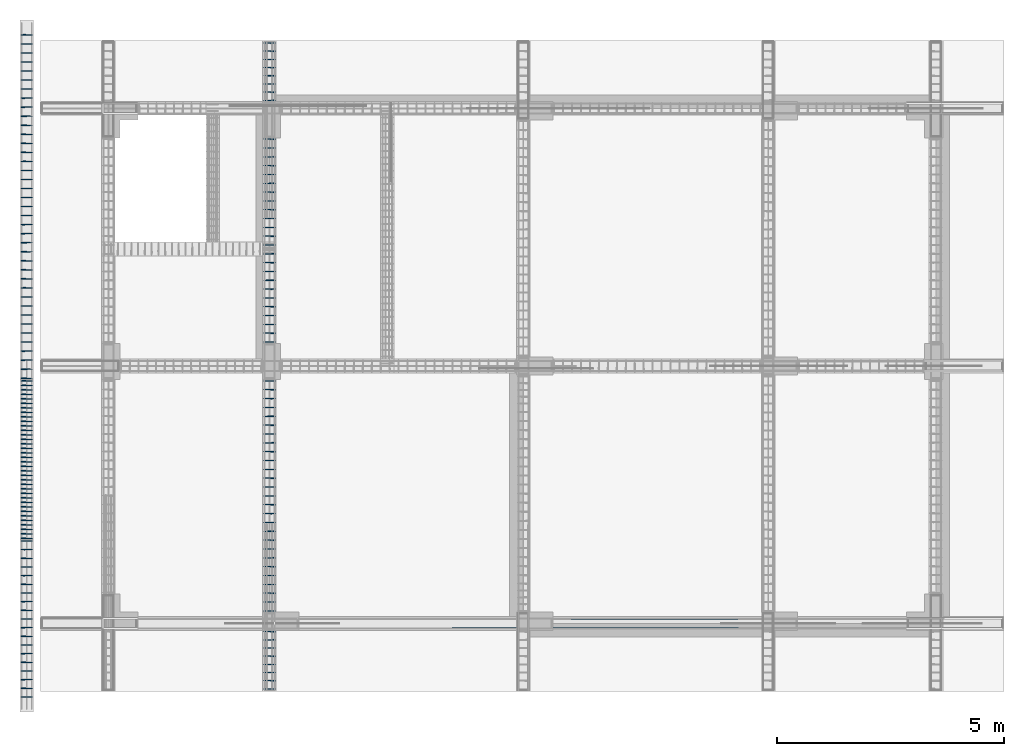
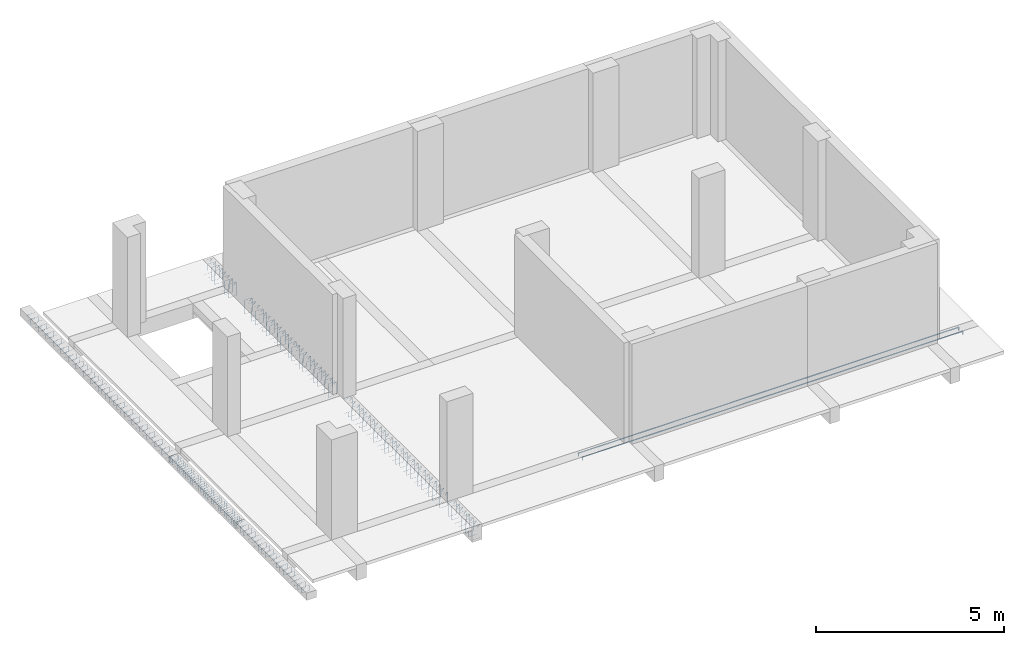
# One storey, part 2 of 3: 3 reinforcing bars.
"""IFC4 building model written with IfcOpenShell, lengths in metres."""

from ifc_helpers import new_model, entity, si_unit, frame, origin_with_axes, place, context, project, spatial, source, transform, mapped, element, save


model = new_model("IFC4")

# Units and contexts
model_context = context("Model", 3, precision=1e-05, world=origin_with_axes())
ifc_project = project(units=[si_unit("LENGTHUNIT", "METRE"), si_unit("AREAUNIT", "SQUARE_METRE"), si_unit("VOLUMEUNIT", "CUBIC_METRE"), si_unit("MASSUNIT", "GRAM", prefix="KILO"), si_unit("TIMEUNIT", "SECOND"), si_unit("PLANEANGLEUNIT", "RADIAN"), si_unit("SOLIDANGLEUNIT", "STERADIAN"), si_unit("THERMODYNAMICTEMPERATUREUNIT", "DEGREE_CELSIUS")], contexts=[model_context])

# Site, building, storey
placement_1 = place(None, origin_with_axes())
site = spatial("IfcSite", under=ifc_project, at=placement_1, Name="Italia", CompositionType="ELEMENT")
building = spatial("IfcBuilding", under=site, at=placement_1, Name="Palazzina", CompositionType="ELEMENT")
storey_placement = place(None, frame((0.0, 0.0, 3.75), z_axis=(0.0, 0.0, 1.0), x_axis=(1.0, 0.0, 0.0)))
storey = spatial("IfcBuildingStorey", under=building, at=storey_placement, Name="Storey 1", CompositionType="ELEMENT", Elevation=3.75)

# Reinforcing bars
shared_shape_1 = source(origin_with_axes(), model_context, "Body", "AdvancedSweptSolid", [
    entity("IfcSweptDiskSolid", entity("IfcIndexedPolyCurve", entity("IfcCartesianPointList3D", [[7.74546, 0.043, 3.61], [7.74546, 0.043, 3.7], [7.74622, 0.043, 3.70383], [7.74839, 0.043, 3.70707], [7.75163, 0.043, 3.70924], [7.75546, 0.043, 3.71], [8.96, 0.043, 3.71], [18.2209, 0.043, 3.71], [19.4255, 0.043, 3.71], [19.4293, 0.043, 3.70924], [19.4325, 0.043, 3.70707], [19.4347, 0.043, 3.70383], [19.4355, 0.043, 3.7], [19.4355, 0.043, 3.61]]), [entity("IfcLineIndex", [1, 2]), entity("IfcLineIndex", [2, 3]), entity("IfcLineIndex", [3, 4]), entity("IfcLineIndex", [4, 5]), entity("IfcLineIndex", [5, 6]), entity("IfcLineIndex", [6, 7]), entity("IfcLineIndex", [7, 8]), entity("IfcLineIndex", [8, 9]), entity("IfcLineIndex", [9, 10]), entity("IfcLineIndex", [10, 11]), entity("IfcLineIndex", [11, 12]), entity("IfcLineIndex", [12, 13]), entity("IfcLineIndex", [13, 14])], False), 0.01),
])
placement_2 = place(placement_1, origin_with_axes())
reinforcing_bar_1_placement = place(placement_2, origin_with_axes())
element("IfcReinforcingBar", 1, at=reinforcing_bar_1_placement, inside=storey, BarLength=11.8812, CrossSectionArea=0.00031416, NominalDiameter=0.02, context=model_context, shape_type="MappedRepresentation", body=[
    mapped(shared_shape_1, transform((0.0, 0.214, 0.0), x_axis=(1.0, 0.0, 0.0), y_axis=(0.0, 1.0, 0.0), z_axis=(0.0, 0.0, 1.0), scale=1.0)),
    mapped(shared_shape_1, transform((0.0, 0.0, 0.0), x_axis=(1.0, 0.0, 0.0), y_axis=(0.0, 1.0, 0.0), z_axis=(0.0, 0.0, 1.0), scale=1.0)),
])
shared_shape_2 = source(origin_with_axes(), model_context, "Body", "AdvancedSweptSolid", [
    entity("IfcSweptDiskSolid", entity("IfcIndexedPolyCurve", entity("IfcCartesianPointList3D", [[-1.70029, -1.475, 3.62929], [-1.76807, -1.47411, 3.69707], [-1.771, -1.47404, 3.70414], [-1.771, -1.47397, 3.711], [-1.77024, -1.47394, 3.71483], [-1.76807, -1.4739, 3.71807], [-1.76483, -1.47386, 3.72024], [-1.761, -1.47383, 3.721], [-1.539, -1.47176, 3.721], [-1.53517, -1.47173, 3.72024], [-1.53193, -1.47169, 3.71807], [-1.52976, -1.47165, 3.71483], [-1.529, -1.47162, 3.711], [-1.529, -1.47011, 3.549], [-1.52976, -1.47007, 3.54517], [-1.53193, -1.47004, 3.54193], [-1.53517, -1.47, 3.53976], [-1.539, -1.46996, 3.539], [-1.761, -1.4679, 3.539], [-1.76483, -1.46786, 3.53976], [-1.76807, -1.46783, 3.54193], [-1.77024, -1.46779, 3.54517], [-1.771, -1.46775, 3.549], [-1.771, -1.46625, 3.711], [-1.77024, -1.46621, 3.71483], [-1.76807, -1.46617, 3.71807], [-1.76483, -1.46614, 3.72024], [-1.761, -1.4661, 3.721], [-1.75414, -1.46604, 3.721], [-1.74707, -1.46597, 3.71807], [-1.67929, -1.46507, 3.65029]]), [entity("IfcLineIndex", [1, 2]), entity("IfcLineIndex", [2, 3]), entity("IfcLineIndex", [3, 4]), entity("IfcLineIndex", [4, 5]), entity("IfcLineIndex", [5, 6]), entity("IfcLineIndex", [6, 7]), entity("IfcLineIndex", [7, 8]), entity("IfcLineIndex", [8, 9]), entity("IfcLineIndex", [9, 10]), entity("IfcLineIndex", [10, 11]), entity("IfcLineIndex", [11, 12]), entity("IfcLineIndex", [12, 13]), entity("IfcLineIndex", [13, 14]), entity("IfcLineIndex", [14, 15]), entity("IfcLineIndex", [15, 16]), entity("IfcLineIndex", [16, 17]), entity("IfcLineIndex", [17, 18]), entity("IfcLineIndex", [18, 19]), entity("IfcLineIndex", [19, 20]), entity("IfcLineIndex", [20, 21]), entity("IfcLineIndex", [21, 22]), entity("IfcLineIndex", [22, 23]), entity("IfcLineIndex", [23, 24]), entity("IfcLineIndex", [24, 25]), entity("IfcLineIndex", [25, 26]), entity("IfcLineIndex", [26, 27]), entity("IfcLineIndex", [27, 28]), entity("IfcLineIndex", [28, 29]), entity("IfcLineIndex", [29, 30]), entity("IfcLineIndex", [30, 31])], False), 0.004),
])
reinforcing_bar_2_placement = place(placement_2, origin_with_axes())
element("IfcReinforcingBar", 2, at=reinforcing_bar_2_placement, inside=storey, BarLength=1.06682, CrossSectionArea=5.0265e-05, NominalDiameter=0.008, context=model_context, shape_type="MappedRepresentation", body=[
    mapped(shared_shape_2, transform((-4.37498e-05, 4.09514, -4.33922e-05), x_axis=(1.0, 2.87137e-05, 0.0), y_axis=(-2.87798e-05, 1.0, -2.87785e-05), z_axis=(0.0, 2.87785e-05, 1.0), scale=1.0)),
    mapped(shared_shape_2, transform((-4.37498e-05, 4.39275, -4.33922e-05), x_axis=(1.0, 2.87137e-05, 0.0), y_axis=(-2.87798e-05, 1.0, -2.87785e-05), z_axis=(0.0, 2.87785e-05, 1.0), scale=1.0)),
    mapped(shared_shape_2, transform((-4.37498e-05, 4.49194, -4.33922e-05), x_axis=(1.0, 2.87137e-05, 0.0), y_axis=(-2.87798e-05, 1.0, -2.87785e-05), z_axis=(0.0, 2.87785e-05, 1.0), scale=1.0)),
    mapped(shared_shape_2, transform((-4.37498e-05, 5.08714, -4.33922e-05), x_axis=(1.0, 2.87137e-05, 0.0), y_axis=(-2.87798e-05, 1.0, -2.87785e-05), z_axis=(0.0, 2.87785e-05, 1.0), scale=1.0)),
    mapped(shared_shape_2, transform((-4.37498e-05, 3.99594, -4.33922e-05), x_axis=(1.0, 2.87137e-05, 0.0), y_axis=(-2.87798e-05, 1.0, -2.87785e-05), z_axis=(0.0, 2.87785e-05, 1.0), scale=1.0)),
    mapped(shared_shape_2, transform((-4.37498e-05, 4.29354, -4.33922e-05), x_axis=(1.0, 2.87137e-05, 0.0), y_axis=(-2.87798e-05, 1.0, -2.87785e-05), z_axis=(0.0, 2.87785e-05, 1.0), scale=1.0)),
    mapped(shared_shape_2, transform((-4.37498e-05, 3.89674, -4.33922e-05), x_axis=(1.0, 2.87137e-05, 0.0), y_axis=(-2.87798e-05, 1.0, -2.87785e-05), z_axis=(0.0, 2.87785e-05, 1.0), scale=1.0)),
    mapped(shared_shape_2, transform((-0.000140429, 10.218, -0.000133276), x_axis=(1.0, 9.22552e-05, 0.0), y_axis=(-9.23133e-05, 1.0, -8.881e-05), z_axis=(0.0, 8.88101e-05, 1.0), scale=1.0)),
    mapped(shared_shape_2, transform((-0.000140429, 10.4173, -0.000133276), x_axis=(1.0, 9.22552e-05, 0.0), y_axis=(-9.23133e-05, 1.0, -8.881e-05), z_axis=(0.0, 8.88101e-05, 1.0), scale=1.0)),
    mapped(shared_shape_2, transform((-4.37498e-05, 5.18635, -4.33922e-05), x_axis=(1.0, 2.87137e-05, 0.0), y_axis=(-2.87798e-05, 1.0, -2.87785e-05), z_axis=(0.0, 2.87785e-05, 1.0), scale=1.0)),
    mapped(shared_shape_2, transform((-0.000140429, 13.4063, -0.000133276), x_axis=(1.0, 9.22552e-05, 0.0), y_axis=(-9.23133e-05, 1.0, -8.881e-05), z_axis=(0.0, 8.88101e-05, 1.0), scale=1.0)),
    mapped(shared_shape_2, transform((-0.000140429, 13.6055, -0.000133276), x_axis=(1.0, 9.22552e-05, 0.0), y_axis=(-9.23133e-05, 1.0, -8.881e-05), z_axis=(0.0, 8.88101e-05, 1.0), scale=1.0)),
    mapped(shared_shape_2, transform((-4.37498e-05, 4.59114, -4.33922e-05), x_axis=(1.0, 2.87137e-05, 0.0), y_axis=(-2.87798e-05, 1.0, -2.87785e-05), z_axis=(0.0, 2.87785e-05, 1.0), scale=1.0)),
    mapped(shared_shape_2, transform((-4.37498e-05, 4.69034, -4.33922e-05), x_axis=(1.0, 2.87137e-05, 0.0), y_axis=(-2.87798e-05, 1.0, -2.87785e-05), z_axis=(0.0, 2.87785e-05, 1.0), scale=1.0)),
    mapped(shared_shape_2, transform((-4.37498e-05, 4.19434, -4.33922e-05), x_axis=(1.0, 2.87137e-05, 0.0), y_axis=(-2.87798e-05, 1.0, -2.87785e-05), z_axis=(0.0, 2.87785e-05, 1.0), scale=1.0)),
    mapped(shared_shape_2, transform((-4.37498e-05, 4.98794, -4.33922e-05), x_axis=(1.0, 2.87137e-05, 0.0), y_axis=(-2.87798e-05, 1.0, -2.87785e-05), z_axis=(0.0, 2.87785e-05, 1.0), scale=1.0)),
    mapped(shared_shape_2, transform((-0.000140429, 12.4099, -0.000133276), x_axis=(1.0, 9.22552e-05, 0.0), y_axis=(-9.23133e-05, 1.0, -8.881e-05), z_axis=(0.0, 8.88101e-05, 1.0), scale=1.0)),
    mapped(shared_shape_2, transform((-0.000140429, 12.6092, -0.000133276), x_axis=(1.0, 9.22552e-05, 0.0), y_axis=(-9.23133e-05, 1.0, -8.881e-05), z_axis=(0.0, 8.88101e-05, 1.0), scale=1.0)),
    mapped(shared_shape_2, transform((-4.37498e-05, 5.28554, -4.33922e-05), x_axis=(1.0, 2.87137e-05, 0.0), y_axis=(-2.87798e-05, 1.0, -2.87785e-05), z_axis=(0.0, 2.87785e-05, 1.0), scale=1.0)),
    mapped(shared_shape_2, transform((-4.37498e-05, 5.38474, -4.33922e-05), x_axis=(1.0, 2.87137e-05, 0.0), y_axis=(-2.87798e-05, 1.0, -2.87785e-05), z_axis=(0.0, 2.87785e-05, 1.0), scale=1.0)),
    mapped(shared_shape_2, transform((-0.000140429, 11.2144, -0.000133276), x_axis=(1.0, 9.22552e-05, 0.0), y_axis=(-9.23133e-05, 1.0, -8.881e-05), z_axis=(0.0, 8.88101e-05, 1.0), scale=1.0)),
    mapped(shared_shape_2, transform((-0.000140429, 13.8048, -0.000133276), x_axis=(1.0, 9.22552e-05, 0.0), y_axis=(-9.23133e-05, 1.0, -8.881e-05), z_axis=(0.0, 8.88101e-05, 1.0), scale=1.0)),
    mapped(shared_shape_2, transform((-0.000140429, 14.004, -0.000133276), x_axis=(1.0, 9.22552e-05, 0.0), y_axis=(-9.23133e-05, 1.0, -8.881e-05), z_axis=(0.0, 8.88101e-05, 1.0), scale=1.0)),
    mapped(shared_shape_2, transform((-4.37498e-05, 4.78955, -4.33922e-05), x_axis=(1.0, 2.87137e-05, 0.0), y_axis=(-2.87798e-05, 1.0, -2.87785e-05), z_axis=(0.0, 2.87785e-05, 1.0), scale=1.0)),
    mapped(shared_shape_2, transform((-4.37498e-05, 3.79754, -4.33922e-05), x_axis=(1.0, 2.87137e-05, 0.0), y_axis=(-2.87798e-05, 1.0, -2.87785e-05), z_axis=(0.0, 2.87785e-05, 1.0), scale=1.0)),
    mapped(shared_shape_2, transform((-0.000140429, 10.0188, -0.000133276), x_axis=(1.0, 9.22552e-05, 0.0), y_axis=(-9.23133e-05, 1.0, -8.881e-05), z_axis=(0.0, 8.88101e-05, 1.0), scale=1.0)),
    mapped(shared_shape_2, transform((-0.000140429, 10.6166, -0.000133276), x_axis=(1.0, 9.22552e-05, 0.0), y_axis=(-9.23133e-05, 1.0, -8.881e-05), z_axis=(0.0, 8.88101e-05, 1.0), scale=1.0)),
    mapped(shared_shape_2, transform((-0.000140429, 11.0151, -0.000133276), x_axis=(1.0, 9.22552e-05, 0.0), y_axis=(-9.23133e-05, 1.0, -8.881e-05), z_axis=(0.0, 8.88101e-05, 1.0), scale=1.0)),
    mapped(shared_shape_2, transform((-0.000140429, 11.6129, -0.000133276), x_axis=(1.0, 9.22552e-05, 0.0), y_axis=(-9.23133e-05, 1.0, -8.881e-05), z_axis=(0.0, 8.88101e-05, 1.0), scale=1.0)),
    mapped(shared_shape_2, transform((0.0, 0.191223, 0.0), x_axis=(1.0, 0.0, 0.0), y_axis=(0.0, 1.0, 0.0), z_axis=(0.0, 0.0, 1.0), scale=1.0)),
    mapped(shared_shape_2, transform((-4.37498e-05, 4.88874, -4.33922e-05), x_axis=(1.0, 2.87137e-05, 0.0), y_axis=(-2.87798e-05, 1.0, -2.87785e-05), z_axis=(0.0, 2.87785e-05, 1.0), scale=1.0)),
    mapped(shared_shape_2, transform((-0.000140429, 10.8158, -0.000133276), x_axis=(1.0, 9.22552e-05, 0.0), y_axis=(-9.23133e-05, 1.0, -8.881e-05), z_axis=(0.0, 8.88101e-05, 1.0), scale=1.0)),
    mapped(shared_shape_2, transform((-0.000140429, 11.4136, -0.000133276), x_axis=(1.0, 9.22552e-05, 0.0), y_axis=(-9.23133e-05, 1.0, -8.881e-05), z_axis=(0.0, 8.88101e-05, 1.0), scale=1.0)),
    mapped(shared_shape_2, transform((-0.000140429, 11.8121, -0.000133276), x_axis=(1.0, 9.22552e-05, 0.0), y_axis=(-9.23133e-05, 1.0, -8.881e-05), z_axis=(0.0, 8.88101e-05, 1.0), scale=1.0)),
    mapped(shared_shape_2, transform((-1.96695e-05, 2.29464, -2.07424e-05), x_axis=(1.0, 1.28046e-05, 0.0), y_axis=(-1.28669e-05, 1.0, -1.37518e-05), z_axis=(0.0, 1.37518e-05, 1.0), scale=1.0)),
    mapped(shared_shape_2, transform((-0.000140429, 14.6018, -0.000133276), x_axis=(1.0, 9.22552e-05, 0.0), y_axis=(-9.23133e-05, 1.0, -8.881e-05), z_axis=(0.0, 8.88101e-05, 1.0), scale=1.0)),
    mapped(shared_shape_2, transform((-0.000140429, 13.0077, -0.000133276), x_axis=(1.0, 9.22552e-05, 0.0), y_axis=(-9.23133e-05, 1.0, -8.881e-05), z_axis=(0.0, 8.88101e-05, 1.0), scale=1.0)),
    mapped(shared_shape_2, transform((-0.000140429, 12.8085, -0.000133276), x_axis=(1.0, 9.22552e-05, 0.0), y_axis=(-9.23133e-05, 1.0, -8.881e-05), z_axis=(0.0, 8.88101e-05, 1.0), scale=1.0)),
    mapped(shared_shape_2, transform((-1.96695e-05, 2.10342, -2.07424e-05), x_axis=(1.0, 1.28046e-05, 0.0), y_axis=(-1.28669e-05, 1.0, -1.37518e-05), z_axis=(0.0, 1.37518e-05, 1.0), scale=1.0)),
    mapped(shared_shape_2, transform((-0.000140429, 13.207, -0.000133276), x_axis=(1.0, 9.22552e-05, 0.0), y_axis=(-9.23133e-05, 1.0, -8.881e-05), z_axis=(0.0, 8.88101e-05, 1.0), scale=1.0)),
    mapped(shared_shape_2, transform((-4.37498e-05, 3.59914, -4.33922e-05), x_axis=(1.0, 2.87137e-05, 0.0), y_axis=(-2.87798e-05, 1.0, -2.87785e-05), z_axis=(0.0, 2.87785e-05, 1.0), scale=1.0)),
    mapped(shared_shape_2, transform((-4.37498e-05, 3.49994, -4.33922e-05), x_axis=(1.0, 2.87137e-05, 0.0), y_axis=(-2.87798e-05, 1.0, -2.87785e-05), z_axis=(0.0, 2.87785e-05, 1.0), scale=1.0)),
    mapped(shared_shape_2, transform((-0.000140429, 12.2107, -0.000133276), x_axis=(1.0, 9.22552e-05, 0.0), y_axis=(-9.23133e-05, 1.0, -8.881e-05), z_axis=(0.0, 8.88101e-05, 1.0), scale=1.0)),
    mapped(shared_shape_2, transform((-4.37498e-05, 3.69834, -4.33922e-05), x_axis=(1.0, 2.87137e-05, 0.0), y_axis=(-2.87798e-05, 1.0, -2.87785e-05), z_axis=(0.0, 2.87785e-05, 1.0), scale=1.0)),
    mapped(shared_shape_2, transform((0.0, 0.0, 0.0), x_axis=(1.0, 0.0, 0.0), y_axis=(0.0, 1.0, 0.0), z_axis=(0.0, 0.0, 1.0), scale=1.0)),
    mapped(shared_shape_2, transform((0.0, 0.382445, 0.0), x_axis=(1.0, 0.0, 0.0), y_axis=(0.0, 1.0, 0.0), z_axis=(0.0, 0.0, 1.0), scale=1.0)),
    mapped(shared_shape_2, transform((0.0, 0.573666, 0.0), x_axis=(1.0, 0.0, 0.0), y_axis=(0.0, 1.0, 0.0), z_axis=(0.0, 0.0, 1.0), scale=1.0)),
    mapped(shared_shape_2, transform((0.0, 0.956111, 0.0), x_axis=(1.0, 0.0, 0.0), y_axis=(0.0, 1.0, 0.0), z_axis=(0.0, 0.0, 1.0), scale=1.0)),
    mapped(shared_shape_2, transform((0.0, 1.14733, 0.0), x_axis=(1.0, 0.0, 0.0), y_axis=(0.0, 1.0, 0.0), z_axis=(0.0, 0.0, 1.0), scale=1.0)),
    mapped(shared_shape_2, transform((0.0, 0.764889, 0.0), x_axis=(1.0, 0.0, 0.0), y_axis=(0.0, 1.0, 0.0), z_axis=(0.0, 0.0, 1.0), scale=1.0)),
    mapped(shared_shape_2, transform((-1.96695e-05, 1.33853, -2.07424e-05), x_axis=(1.0, 1.28046e-05, 0.0), y_axis=(-1.28669e-05, 1.0, -1.37518e-05), z_axis=(0.0, 1.37518e-05, 1.0), scale=1.0)),
    mapped(shared_shape_2, transform((-0.000140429, 12.0114, -0.000133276), x_axis=(1.0, 9.22552e-05, 0.0), y_axis=(-9.23133e-05, 1.0, -8.881e-05), z_axis=(0.0, 8.88101e-05, 1.0), scale=1.0)),
    mapped(shared_shape_2, transform((-0.000140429, 14.4026, -0.000133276), x_axis=(1.0, 9.22552e-05, 0.0), y_axis=(-9.23133e-05, 1.0, -8.881e-05), z_axis=(0.0, 8.88101e-05, 1.0), scale=1.0)),
    mapped(shared_shape_2, transform((-1.96695e-05, 1.72097, -2.07424e-05), x_axis=(1.0, 1.28046e-05, 0.0), y_axis=(-1.28669e-05, 1.0, -1.37518e-05), z_axis=(0.0, 1.37518e-05, 1.0), scale=1.0)),
    mapped(shared_shape_2, transform((0.0, 1.52976, 0.0), x_axis=(1.0, 0.0, 0.0), y_axis=(0.0, 1.0, 0.0), z_axis=(0.0, 0.0, 1.0), scale=1.0)),
    mapped(shared_shape_2, transform((-0.000140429, 14.2033, -0.000133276), x_axis=(1.0, 9.22552e-05, 0.0), y_axis=(-9.23133e-05, 1.0, -8.881e-05), z_axis=(0.0, 8.88101e-05, 1.0), scale=1.0)),
    mapped(shared_shape_2, transform((0.0, 1.91221, 0.0), x_axis=(1.0, 0.0, 0.0), y_axis=(0.0, 1.0, 0.0), z_axis=(0.0, 0.0, 1.0), scale=1.0)),
    mapped(shared_shape_2, transform((0.0, 3.05956, 0.0), x_axis=(1.0, 0.0, 0.0), y_axis=(0.0, 1.0, 0.0), z_axis=(0.0, 0.0, 1.0), scale=1.0)),
    mapped(shared_shape_2, transform((0.0, 3.442, 0.0), x_axis=(1.0, 0.0, 0.0), y_axis=(0.0, 1.0, 0.0), z_axis=(0.0, 0.0, 1.0), scale=1.0)),
    mapped(shared_shape_2, transform((0.0, 3.25078, 0.0), x_axis=(1.0, 0.0, 0.0), y_axis=(0.0, 1.0, 0.0), z_axis=(0.0, 0.0, 1.0), scale=1.0)),
    mapped(shared_shape_2, transform((0.0, 2.86833, 0.0), x_axis=(1.0, 0.0, 0.0), y_axis=(0.0, 1.0, 0.0), z_axis=(0.0, 0.0, 1.0), scale=1.0)),
    mapped(shared_shape_2, transform((0.0, 2.67711, 0.0), x_axis=(1.0, 0.0, 0.0), y_axis=(0.0, 1.0, 0.0), z_axis=(0.0, 0.0, 1.0), scale=1.0)),
    mapped(shared_shape_2, transform((0.0, 2.48589, 0.0), x_axis=(1.0, 0.0, 0.0), y_axis=(0.0, 1.0, 0.0), z_axis=(0.0, 0.0, 1.0), scale=1.0)),
    mapped(shared_shape_2, transform((5.30481e-05, 7.42858, 4.673e-05), x_axis=(1.0, -3.48679e-05, 0.0), y_axis=(3.48041e-05, 1.0, 3.12843e-05), z_axis=(0.0, -3.12843e-05, 1.0), scale=1.0)),
    mapped(shared_shape_2, transform((5.30481e-05, 6.17845, 4.673e-05), x_axis=(1.0, -3.48679e-05, 0.0), y_axis=(3.48041e-05, 1.0, 3.12843e-05), z_axis=(0.0, -3.12843e-05, 1.0), scale=1.0)),
    mapped(shared_shape_2, transform((5.30481e-05, 6.37685, 4.673e-05), x_axis=(1.0, -3.48679e-05, 0.0), y_axis=(3.48041e-05, 1.0, 3.12843e-05), z_axis=(0.0, -3.12843e-05, 1.0), scale=1.0)),
    mapped(shared_shape_2, transform((5.30481e-05, 5.58325, 4.673e-05), x_axis=(1.0, -3.48679e-05, 0.0), y_axis=(3.48041e-05, 1.0, 3.12843e-05), z_axis=(0.0, -3.12843e-05, 1.0), scale=1.0)),
    mapped(shared_shape_2, transform((5.30481e-05, 7.22932, 4.673e-05), x_axis=(1.0, -3.48679e-05, 0.0), y_axis=(3.48041e-05, 1.0, 3.12843e-05), z_axis=(0.0, -3.12843e-05, 1.0), scale=1.0)),
    mapped(shared_shape_2, transform((5.30481e-05, 9.42121, 4.673e-05), x_axis=(1.0, -3.48679e-05, 0.0), y_axis=(3.48041e-05, 1.0, 3.12843e-05), z_axis=(0.0, -3.12843e-05, 1.0), scale=1.0)),
    mapped(shared_shape_2, transform((5.30481e-05, 5.88086, 4.673e-05), x_axis=(1.0, -3.48679e-05, 0.0), y_axis=(3.48041e-05, 1.0, 3.12843e-05), z_axis=(0.0, -3.12843e-05, 1.0), scale=1.0)),
    mapped(shared_shape_2, transform((5.30481e-05, 5.48406, 4.673e-05), x_axis=(1.0, -3.48679e-05, 0.0), y_axis=(3.48041e-05, 1.0, 3.12843e-05), z_axis=(0.0, -3.12843e-05, 1.0), scale=1.0)),
    mapped(shared_shape_2, transform((5.30481e-05, 5.98005, 4.673e-05), x_axis=(1.0, -3.48679e-05, 0.0), y_axis=(3.48041e-05, 1.0, 3.12843e-05), z_axis=(0.0, -3.12843e-05, 1.0), scale=1.0)),
    mapped(shared_shape_2, transform((5.30481e-05, 7.82711, 4.673e-05), x_axis=(1.0, -3.48679e-05, 0.0), y_axis=(3.48041e-05, 1.0, 3.12843e-05), z_axis=(0.0, -3.12843e-05, 1.0), scale=1.0)),
    mapped(shared_shape_2, transform((5.30481e-05, 7.62784, 4.673e-05), x_axis=(1.0, -3.48679e-05, 0.0), y_axis=(3.48041e-05, 1.0, 3.12843e-05), z_axis=(0.0, -3.12843e-05, 1.0), scale=1.0)),
    mapped(shared_shape_2, transform((5.30481e-05, 6.57525, 4.673e-05), x_axis=(1.0, -3.48679e-05, 0.0), y_axis=(3.48041e-05, 1.0, 3.12843e-05), z_axis=(0.0, -3.12843e-05, 1.0), scale=1.0)),
    mapped(shared_shape_2, transform((5.30481e-05, 6.47605, 4.673e-05), x_axis=(1.0, -3.48679e-05, 0.0), y_axis=(3.48041e-05, 1.0, 3.12843e-05), z_axis=(0.0, -3.12843e-05, 1.0), scale=1.0)),
    mapped(shared_shape_2, transform((5.30481e-05, 5.68245, 4.673e-05), x_axis=(1.0, -3.48679e-05, 0.0), y_axis=(3.48041e-05, 1.0, 3.12843e-05), z_axis=(0.0, -3.12843e-05, 1.0), scale=1.0)),
    mapped(shared_shape_2, transform((5.30481e-05, 6.77365, 4.673e-05), x_axis=(1.0, -3.48679e-05, 0.0), y_axis=(3.48041e-05, 1.0, 3.12843e-05), z_axis=(0.0, -3.12843e-05, 1.0), scale=1.0)),
    mapped(shared_shape_2, transform((5.30481e-05, 7.03005, 4.673e-05), x_axis=(1.0, -3.48679e-05, 0.0), y_axis=(3.48041e-05, 1.0, 3.12843e-05), z_axis=(0.0, -3.12843e-05, 1.0), scale=1.0)),
    mapped(shared_shape_2, transform((5.30481e-05, 5.78165, 4.673e-05), x_axis=(1.0, -3.48679e-05, 0.0), y_axis=(3.48041e-05, 1.0, 3.12843e-05), z_axis=(0.0, -3.12843e-05, 1.0), scale=1.0)),
    mapped(shared_shape_2, transform((5.30481e-05, 6.07925, 4.673e-05), x_axis=(1.0, -3.48679e-05, 0.0), y_axis=(3.48041e-05, 1.0, 3.12843e-05), z_axis=(0.0, -3.12843e-05, 1.0), scale=1.0)),
    mapped(shared_shape_2, transform((5.30481e-05, 6.67446, 4.673e-05), x_axis=(1.0, -3.48679e-05, 0.0), y_axis=(3.48041e-05, 1.0, 3.12843e-05), z_axis=(0.0, -3.12843e-05, 1.0), scale=1.0)),
    mapped(shared_shape_2, transform((5.30481e-05, 8.02637, 4.673e-05), x_axis=(1.0, -3.48679e-05, 0.0), y_axis=(3.48041e-05, 1.0, 3.12843e-05), z_axis=(0.0, -3.12843e-05, 1.0), scale=1.0)),
    mapped(shared_shape_2, transform((5.30481e-05, 6.27766, 4.673e-05), x_axis=(1.0, -3.48679e-05, 0.0), y_axis=(3.48041e-05, 1.0, 3.12843e-05), z_axis=(0.0, -3.12843e-05, 1.0), scale=1.0)),
    mapped(shared_shape_2, transform((5.30481e-05, 8.62416, 4.673e-05), x_axis=(1.0, -3.48679e-05, 0.0), y_axis=(3.48041e-05, 1.0, 3.12843e-05), z_axis=(0.0, -3.12843e-05, 1.0), scale=1.0)),
    mapped(shared_shape_2, transform((5.30481e-05, 8.22563, 4.673e-05), x_axis=(1.0, -3.48679e-05, 0.0), y_axis=(3.48041e-05, 1.0, 3.12843e-05), z_axis=(0.0, -3.12843e-05, 1.0), scale=1.0)),
    mapped(shared_shape_2, transform((5.30481e-05, 6.97205, 4.673e-05), x_axis=(1.0, -3.48679e-05, 0.0), y_axis=(3.48041e-05, 1.0, 3.12843e-05), z_axis=(0.0, -3.12843e-05, 1.0), scale=1.0)),
    mapped(shared_shape_2, transform((5.30481e-05, 6.87285, 4.673e-05), x_axis=(1.0, -3.48679e-05, 0.0), y_axis=(3.48041e-05, 1.0, 3.12843e-05), z_axis=(0.0, -3.12843e-05, 1.0), scale=1.0)),
    mapped(shared_shape_2, transform((5.30481e-05, 8.4249, 4.673e-05), x_axis=(1.0, -3.48679e-05, 0.0), y_axis=(3.48041e-05, 1.0, 3.12843e-05), z_axis=(0.0, -3.12843e-05, 1.0), scale=1.0)),
    mapped(shared_shape_2, transform((5.30481e-05, 9.22195, 4.673e-05), x_axis=(1.0, -3.48679e-05, 0.0), y_axis=(3.48041e-05, 1.0, 3.12843e-05), z_axis=(0.0, -3.12843e-05, 1.0), scale=1.0)),
    mapped(shared_shape_2, transform((5.30481e-05, 9.02269, 4.673e-05), x_axis=(1.0, -3.48679e-05, 0.0), y_axis=(3.48041e-05, 1.0, 3.12843e-05), z_axis=(0.0, -3.12843e-05, 1.0), scale=1.0)),
    mapped(shared_shape_2, transform((5.30481e-05, 8.82342, 4.673e-05), x_axis=(1.0, -3.48679e-05, 0.0), y_axis=(3.48041e-05, 1.0, 3.12843e-05), z_axis=(0.0, -3.12843e-05, 1.0), scale=1.0)),
    mapped(shared_shape_2, transform((-0.000140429, 9.81952, -0.000133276), x_axis=(1.0, 9.22552e-05, 0.0), y_axis=(-9.23133e-05, 1.0, -8.881e-05), z_axis=(0.0, 8.88101e-05, 1.0), scale=1.0)),
    mapped(shared_shape_2, transform((-0.000140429, 9.62026, -0.000133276), x_axis=(1.0, 9.22552e-05, 0.0), y_axis=(-9.23133e-05, 1.0, -8.881e-05), z_axis=(0.0, 8.88101e-05, 1.0), scale=1.0)),
])
shared_shape_3 = source(origin_with_axes(), model_context, "Body", "AdvancedSweptSolid", [
    entity("IfcSweptDiskSolid", entity("IfcIndexedPolyCurve", entity("IfcCartesianPointList3D", [[3.75029, -1.287, 3.62929], [3.81807, -1.28756, 3.69707], [3.821, -1.2876, 3.70414], [3.821, -1.28764, 3.711], [3.82024, -1.28766, 3.71483], [3.81807, -1.28769, 3.71807], [3.81483, -1.28771, 3.72024], [3.811, -1.28773, 3.721], [3.589, -1.28902, 3.721], [3.58517, -1.28904, 3.72024], [3.58193, -1.28906, 3.71807], [3.57976, -1.28909, 3.71483], [3.579, -1.28911, 3.711], [3.579, -1.29155, 3.289], [3.57976, -1.29158, 3.28517], [3.58193, -1.2916, 3.28193], [3.58517, -1.29162, 3.27976], [3.589, -1.29165, 3.279], [3.811, -1.29293, 3.279], [3.81483, -1.29296, 3.27976], [3.81807, -1.29298, 3.28193], [3.82024, -1.293, 3.28517], [3.821, -1.29302, 3.289], [3.821, -1.29547, 3.711], [3.82024, -1.29549, 3.71483], [3.81807, -1.29552, 3.71807], [3.81483, -1.29554, 3.72024], [3.811, -1.29556, 3.721], [3.80414, -1.2956, 3.721], [3.79707, -1.29564, 3.71807], [3.72929, -1.2962, 3.65029]]), [entity("IfcLineIndex", [1, 2]), entity("IfcLineIndex", [2, 3]), entity("IfcLineIndex", [3, 4]), entity("IfcLineIndex", [4, 5]), entity("IfcLineIndex", [5, 6]), entity("IfcLineIndex", [6, 7]), entity("IfcLineIndex", [7, 8]), entity("IfcLineIndex", [8, 9]), entity("IfcLineIndex", [9, 10]), entity("IfcLineIndex", [10, 11]), entity("IfcLineIndex", [11, 12]), entity("IfcLineIndex", [12, 13]), entity("IfcLineIndex", [13, 14]), entity("IfcLineIndex", [14, 15]), entity("IfcLineIndex", [15, 16]), entity("IfcLineIndex", [16, 17]), entity("IfcLineIndex", [17, 18]), entity("IfcLineIndex", [18, 19]), entity("IfcLineIndex", [19, 20]), entity("IfcLineIndex", [20, 21]), entity("IfcLineIndex", [21, 22]), entity("IfcLineIndex", [22, 23]), entity("IfcLineIndex", [23, 24]), entity("IfcLineIndex", [24, 25]), entity("IfcLineIndex", [25, 26]), entity("IfcLineIndex", [26, 27]), entity("IfcLineIndex", [27, 28]), entity("IfcLineIndex", [28, 29]), entity("IfcLineIndex", [29, 30]), entity("IfcLineIndex", [30, 31])], False), 0.004),
])
reinforcing_bar_3_placement = place(placement_2, origin_with_axes())
element("IfcReinforcingBar", 3, at=reinforcing_bar_3_placement, inside=storey, BarLength=1.5868, CrossSectionArea=5.0265e-05, NominalDiameter=0.008, context=model_context, shape_type="MappedRepresentation", body=[
    mapped(shared_shape_3, transform((0.0, 6.20678, 0.0), x_axis=(1.0, 0.0, 0.0), y_axis=(0.0, 1.0, 0.0), z_axis=(0.0, 0.0, 1.0), scale=1.0)),
    mapped(shared_shape_3, transform((0.0, 6.40186, 0.0), x_axis=(1.0, 0.0, 0.0), y_axis=(0.0, 1.0, 0.0), z_axis=(0.0, 0.0, 1.0), scale=1.0)),
    mapped(shared_shape_3, transform((0.0, 0.0, 0.0), x_axis=(1.0, 0.0, 0.0), y_axis=(0.0, 1.0, 0.0), z_axis=(0.0, 0.0, 1.0), scale=1.0)),
    mapped(shared_shape_3, transform((0.0, 4.45108, 0.0), x_axis=(1.0, 0.0, 0.0), y_axis=(0.0, 1.0, 0.0), z_axis=(0.0, 0.0, 1.0), scale=1.0)),
    mapped(shared_shape_3, transform((0.0, 3.86585, 0.0), x_axis=(1.0, 0.0, 0.0), y_axis=(0.0, 1.0, 0.0), z_axis=(0.0, 0.0, 1.0), scale=1.0)),
    mapped(shared_shape_3, transform((0.0, 4.06092, 0.0), x_axis=(1.0, 0.0, 0.0), y_axis=(0.0, 1.0, 0.0), z_axis=(0.0, 0.0, 1.0), scale=1.0)),
    mapped(shared_shape_3, transform((0.0, 4.256, 0.0), x_axis=(1.0, 0.0, 0.0), y_axis=(0.0, 1.0, 0.0), z_axis=(0.0, 0.0, 1.0), scale=1.0)),
    mapped(shared_shape_3, transform((0.0, 3.67077, 0.0), x_axis=(1.0, 0.0, 0.0), y_axis=(0.0, 1.0, 0.0), z_axis=(0.0, 0.0, 1.0), scale=1.0)),
    mapped(shared_shape_3, transform((0.0, 4.64615, 0.0), x_axis=(1.0, 0.0, 0.0), y_axis=(0.0, 1.0, 0.0), z_axis=(0.0, 0.0, 1.0), scale=1.0)),
    mapped(shared_shape_3, transform((0.0, 4.84123, 0.0), x_axis=(1.0, 0.0, 0.0), y_axis=(0.0, 1.0, 0.0), z_axis=(0.0, 0.0, 1.0), scale=1.0)),
    mapped(shared_shape_3, transform((0.0, 5.03631, 0.0), x_axis=(1.0, 0.0, 0.0), y_axis=(0.0, 1.0, 0.0), z_axis=(0.0, 0.0, 1.0), scale=1.0)),
    mapped(shared_shape_3, transform((0.0, 6.01171, 0.0), x_axis=(1.0, 0.0, 0.0), y_axis=(0.0, 1.0, 0.0), z_axis=(0.0, 0.0, 1.0), scale=1.0)),
    mapped(shared_shape_3, transform((0.0, 5.42648, 0.0), x_axis=(1.0, 0.0, 0.0), y_axis=(0.0, 1.0, 0.0), z_axis=(0.0, 0.0, 1.0), scale=1.0)),
    mapped(shared_shape_3, transform((0.0, 5.62155, 0.0), x_axis=(1.0, 0.0, 0.0), y_axis=(0.0, 1.0, 0.0), z_axis=(0.0, 0.0, 1.0), scale=1.0)),
    mapped(shared_shape_3, transform((0.0, 5.81663, 0.0), x_axis=(1.0, 0.0, 0.0), y_axis=(0.0, 1.0, 0.0), z_axis=(0.0, 0.0, 1.0), scale=1.0)),
    mapped(shared_shape_3, transform((0.0, 5.23138, 0.0), x_axis=(1.0, 0.0, 0.0), y_axis=(0.0, 1.0, 0.0), z_axis=(0.0, 0.0, 1.0), scale=1.0)),
    mapped(shared_shape_3, transform((0.0, 3.08554, 0.0), x_axis=(1.0, 0.0, 0.0), y_axis=(0.0, 1.0, 0.0), z_axis=(0.0, 0.0, 1.0), scale=1.0)),
    mapped(shared_shape_3, transform((0.0, 3.28062, 0.0), x_axis=(1.0, 0.0, 0.0), y_axis=(0.0, 1.0, 0.0), z_axis=(0.0, 0.0, 1.0), scale=1.0)),
    mapped(shared_shape_3, transform((0.0, 3.47569, 0.0), x_axis=(1.0, 0.0, 0.0), y_axis=(0.0, 1.0, 0.0), z_axis=(0.0, 0.0, 1.0), scale=1.0)),
    mapped(shared_shape_3, transform((0.0, 1.08171, 0.0), x_axis=(1.0, 0.0, 0.0), y_axis=(0.0, 1.0, 0.0), z_axis=(0.0, 0.0, 1.0), scale=1.0)),
    mapped(shared_shape_3, transform((0.0, 0.54086, 0.0), x_axis=(1.0, 0.0, 0.0), y_axis=(0.0, 1.0, 0.0), z_axis=(0.0, 0.0, 1.0), scale=1.0)),
    mapped(shared_shape_3, transform((0.0, 0.721146, 0.0), x_axis=(1.0, 0.0, 0.0), y_axis=(0.0, 1.0, 0.0), z_axis=(0.0, 0.0, 1.0), scale=1.0)),
    mapped(shared_shape_3, transform((0.0, 0.901432, 0.0), x_axis=(1.0, 0.0, 0.0), y_axis=(0.0, 1.0, 0.0), z_axis=(0.0, 0.0, 1.0), scale=1.0)),
    mapped(shared_shape_3, transform((0.0, 0.360575, 0.0), x_axis=(1.0, 0.0, 0.0), y_axis=(0.0, 1.0, 0.0), z_axis=(0.0, 0.0, 1.0), scale=1.0)),
    mapped(shared_shape_3, transform((0.0, 1.262, 0.0), x_axis=(1.0, 0.0, 0.0), y_axis=(0.0, 1.0, 0.0), z_axis=(0.0, 0.0, 1.0), scale=1.0)),
    mapped(shared_shape_3, transform((0.0, 1.72, 0.0), x_axis=(1.0, 0.0, 0.0), y_axis=(0.0, 1.0, 0.0), z_axis=(0.0, 0.0, 1.0), scale=1.0)),
    mapped(shared_shape_3, transform((0.0, 1.91508, 0.0), x_axis=(1.0, 0.0, 0.0), y_axis=(0.0, 1.0, 0.0), z_axis=(0.0, 0.0, 1.0), scale=1.0)),
    mapped(shared_shape_3, transform((0.0, 2.89046, 0.0), x_axis=(1.0, 0.0, 0.0), y_axis=(0.0, 1.0, 0.0), z_axis=(0.0, 0.0, 1.0), scale=1.0)),
    mapped(shared_shape_3, transform((0.0, 2.30523, 0.0), x_axis=(1.0, 0.0, 0.0), y_axis=(0.0, 1.0, 0.0), z_axis=(0.0, 0.0, 1.0), scale=1.0)),
    mapped(shared_shape_3, transform((0.0, 2.50031, 0.0), x_axis=(1.0, 0.0, 0.0), y_axis=(0.0, 1.0, 0.0), z_axis=(0.0, 0.0, 1.0), scale=1.0)),
    mapped(shared_shape_3, transform((0.0, 2.69538, 0.0), x_axis=(1.0, 0.0, 0.0), y_axis=(0.0, 1.0, 0.0), z_axis=(0.0, 0.0, 1.0), scale=1.0)),
    mapped(shared_shape_3, transform((0.0, 2.11016, 0.0), x_axis=(1.0, 0.0, 0.0), y_axis=(0.0, 1.0, 0.0), z_axis=(0.0, 0.0, 1.0), scale=1.0)),
    mapped(shared_shape_3, transform((-0.000166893, 14.0617, 0.000154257), x_axis=(1.0, 0.000133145, 0.0), y_axis=(-0.000133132, 1.0, 0.000122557), z_axis=(0.0, -0.000122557, 1.0), scale=1.0)),
    mapped(shared_shape_3, transform((0.0, 6.59694, 0.0), x_axis=(1.0, 0.0, 0.0), y_axis=(0.0, 1.0, 0.0), z_axis=(0.0, 0.0, 1.0), scale=1.0)),
    mapped(shared_shape_3, transform((0.0, 0.180286, 0.0), x_axis=(1.0, 0.0, 0.0), y_axis=(0.0, 1.0, 0.0), z_axis=(0.0, 0.0, 1.0), scale=1.0)),
    mapped(shared_shape_3, transform((-0.000166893, 11.7331, 0.000154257), x_axis=(1.0, 0.000133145, 0.0), y_axis=(-0.000133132, 1.0, 0.000122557), z_axis=(0.0, -0.000122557, 1.0), scale=1.0)),
    mapped(shared_shape_3, transform((-0.000166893, 11.1498, 0.000154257), x_axis=(1.0, 0.000133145, 0.0), y_axis=(-0.000133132, 1.0, 0.000122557), z_axis=(0.0, -0.000122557, 1.0), scale=1.0)),
    mapped(shared_shape_3, transform((-0.000166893, 11.3442, 0.000154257), x_axis=(1.0, 0.000133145, 0.0), y_axis=(-0.000133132, 1.0, 0.000122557), z_axis=(0.0, -0.000122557, 1.0), scale=1.0)),
    mapped(shared_shape_3, transform((-0.000166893, 11.5386, 0.000154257), x_axis=(1.0, 0.000133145, 0.0), y_axis=(-0.000133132, 1.0, 0.000122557), z_axis=(0.0, -0.000122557, 1.0), scale=1.0)),
    mapped(shared_shape_3, transform((-0.000166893, 10.9553, 0.000154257), x_axis=(1.0, 0.000133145, 0.0), y_axis=(-0.000133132, 1.0, 0.000122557), z_axis=(0.0, -0.000122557, 1.0), scale=1.0)),
    mapped(shared_shape_3, transform((-0.000166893, 11.9275, 0.000154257), x_axis=(1.0, 0.000133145, 0.0), y_axis=(-0.000133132, 1.0, 0.000122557), z_axis=(0.0, -0.000122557, 1.0), scale=1.0)),
    mapped(shared_shape_3, transform((-0.000166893, 12.1219, 0.000154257), x_axis=(1.0, 0.000133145, 0.0), y_axis=(-0.000133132, 1.0, 0.000122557), z_axis=(0.0, -0.000122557, 1.0), scale=1.0)),
    mapped(shared_shape_3, transform((-0.000166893, 12.9799, 0.000154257), x_axis=(1.0, 0.000133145, 0.0), y_axis=(-0.000133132, 1.0, 0.000122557), z_axis=(0.0, -0.000122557, 1.0), scale=1.0)),
    mapped(shared_shape_3, transform((-0.000166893, 13.8814, 0.000154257), x_axis=(1.0, 0.000133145, 0.0), y_axis=(-0.000133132, 1.0, 0.000122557), z_axis=(0.0, -0.000122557, 1.0), scale=1.0)),
    mapped(shared_shape_3, transform((-0.000166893, 13.3405, 0.000154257), x_axis=(1.0, 0.000133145, 0.0), y_axis=(-0.000133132, 1.0, 0.000122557), z_axis=(0.0, -0.000122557, 1.0), scale=1.0)),
    mapped(shared_shape_3, transform((-0.000166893, 13.5208, 0.000154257), x_axis=(1.0, 0.000133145, 0.0), y_axis=(-0.000133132, 1.0, 0.000122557), z_axis=(0.0, -0.000122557, 1.0), scale=1.0)),
    mapped(shared_shape_3, transform((-0.000166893, 13.7011, 0.000154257), x_axis=(1.0, 0.000133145, 0.0), y_axis=(-0.000133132, 1.0, 0.000122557), z_axis=(0.0, -0.000122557, 1.0), scale=1.0)),
    mapped(shared_shape_3, transform((-0.000166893, 13.1602, 0.000154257), x_axis=(1.0, 0.000133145, 0.0), y_axis=(-0.000133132, 1.0, 0.000122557), z_axis=(0.0, -0.000122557, 1.0), scale=1.0)),
    mapped(shared_shape_3, transform((-0.000166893, 10.372, 0.000154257), x_axis=(1.0, 0.000133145, 0.0), y_axis=(-0.000133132, 1.0, 0.000122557), z_axis=(0.0, -0.000122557, 1.0), scale=1.0)),
    mapped(shared_shape_3, transform((-0.000166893, 10.5665, 0.000154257), x_axis=(1.0, 0.000133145, 0.0), y_axis=(-0.000133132, 1.0, 0.000122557), z_axis=(0.0, -0.000122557, 1.0), scale=1.0)),
    mapped(shared_shape_3, transform((-0.000166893, 10.7609, 0.000154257), x_axis=(1.0, 0.000133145, 0.0), y_axis=(-0.000133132, 1.0, 0.000122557), z_axis=(0.0, -0.000122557, 1.0), scale=1.0)),
    mapped(shared_shape_3, transform((0.0, 8.62219, 0.0), x_axis=(1.0, 0.0, 0.0), y_axis=(0.0, 1.0, 0.0), z_axis=(0.0, 0.0, 1.0), scale=1.0)),
    mapped(shared_shape_3, transform((0.0, 8.03888, 0.0), x_axis=(1.0, 0.0, 0.0), y_axis=(0.0, 1.0, 0.0), z_axis=(0.0, 0.0, 1.0), scale=1.0)),
    mapped(shared_shape_3, transform((0.0, 8.23332, 0.0), x_axis=(1.0, 0.0, 0.0), y_axis=(0.0, 1.0, 0.0), z_axis=(0.0, 0.0, 1.0), scale=1.0)),
    mapped(shared_shape_3, transform((0.0, 8.42775, 0.0), x_axis=(1.0, 0.0, 0.0), y_axis=(0.0, 1.0, 0.0), z_axis=(0.0, 0.0, 1.0), scale=1.0)),
    mapped(shared_shape_3, transform((0.0, 7.84445, 0.0), x_axis=(1.0, 0.0, 0.0), y_axis=(0.0, 1.0, 0.0), z_axis=(0.0, 0.0, 1.0), scale=1.0)),
    mapped(shared_shape_3, transform((0.0, 8.81662, 0.0), x_axis=(1.0, 0.0, 0.0), y_axis=(0.0, 1.0, 0.0), z_axis=(0.0, 0.0, 1.0), scale=1.0)),
    mapped(shared_shape_3, transform((0.0, 9.01106, 0.0), x_axis=(1.0, 0.0, 0.0), y_axis=(0.0, 1.0, 0.0), z_axis=(0.0, 0.0, 1.0), scale=1.0)),
    mapped(shared_shape_3, transform((0.0, 9.20549, 0.0), x_axis=(1.0, 0.0, 0.0), y_axis=(0.0, 1.0, 0.0), z_axis=(0.0, 0.0, 1.0), scale=1.0)),
    mapped(shared_shape_3, transform((-0.000166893, 10.1776, 0.000154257), x_axis=(1.0, 0.000133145, 0.0), y_axis=(-0.000133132, 1.0, 0.000122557), z_axis=(0.0, -0.000122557, 1.0), scale=1.0)),
    mapped(shared_shape_3, transform((-0.000166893, 9.59429, 0.000154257), x_axis=(1.0, 0.000133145, 0.0), y_axis=(-0.000133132, 1.0, 0.000122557), z_axis=(0.0, -0.000122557, 1.0), scale=1.0)),
    mapped(shared_shape_3, transform((-0.000166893, 9.78873, 0.000154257), x_axis=(1.0, 0.000133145, 0.0), y_axis=(-0.000133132, 1.0, 0.000122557), z_axis=(0.0, -0.000122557, 1.0), scale=1.0)),
    mapped(shared_shape_3, transform((-0.000166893, 9.98316, 0.000154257), x_axis=(1.0, 0.000133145, 0.0), y_axis=(-0.000133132, 1.0, 0.000122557), z_axis=(0.0, -0.000122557, 1.0), scale=1.0)),
    mapped(shared_shape_3, transform((-0.000166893, 9.39986, 0.000154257), x_axis=(1.0, 0.000133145, 0.0), y_axis=(-0.000133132, 1.0, 0.000122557), z_axis=(0.0, -0.000122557, 1.0), scale=1.0)),
    mapped(shared_shape_3, transform((-0.000166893, 14.2419, 0.000154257), x_axis=(1.0, 0.000133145, 0.0), y_axis=(-0.000133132, 1.0, 0.000122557), z_axis=(0.0, -0.000122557, 1.0), scale=1.0)),
    mapped(shared_shape_3, transform((0.0, 6.79201, 0.0), x_axis=(1.0, 0.0, 0.0), y_axis=(0.0, 1.0, 0.0), z_axis=(0.0, 0.0, 1.0), scale=1.0)),
    mapped(shared_shape_3, transform((0.0, 7.65001, 0.0), x_axis=(1.0, 0.0, 0.0), y_axis=(0.0, 1.0, 0.0), z_axis=(0.0, 0.0, 1.0), scale=1.0)),
])

save(model, "model.ifc")
